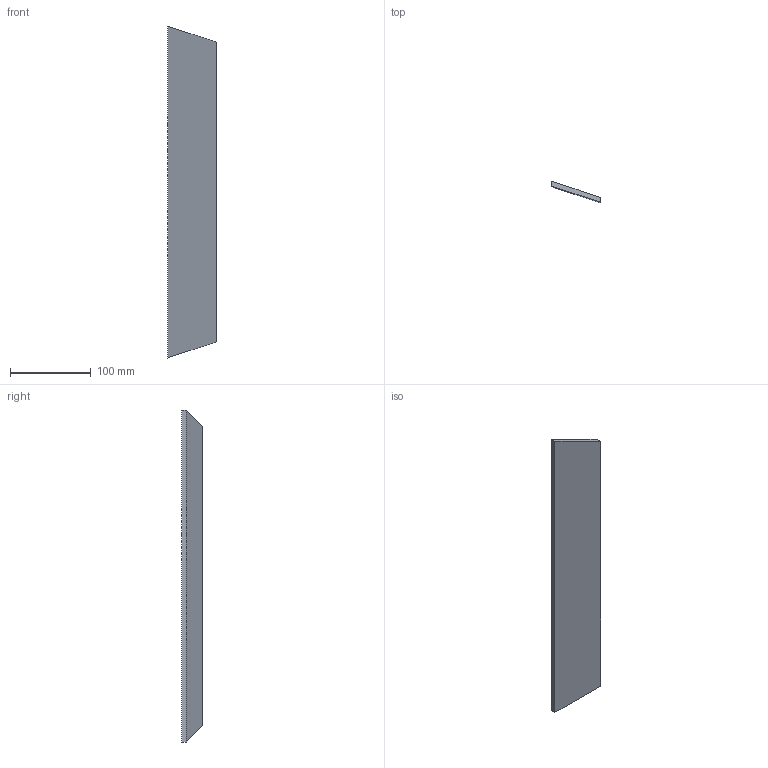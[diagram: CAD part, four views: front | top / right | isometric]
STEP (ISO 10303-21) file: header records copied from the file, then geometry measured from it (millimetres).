
FILE_DESCRIPTION(('Open CASCADE Model'),'2;1');
FILE_NAME('Open CASCADE Shape Model','2026-10-16T18:03:45',('Author'),( 'Open CASCADE'),'Open CASCADE STEP processor 7.8','Open CASCADE 7.8' ,'Unknown');
FILE_SCHEMA(('AUTOMOTIVE_DESIGN { 1 0 10303 214 1 1 1 1 }'));
Length unit declared in the file: millimetre
Products named in the file (1): Open CASCADE STEP translator 7.8 3
Bounding box: 60 x 26 x 412 mm (x, y, z)
Volume: 141120 mm3; surface area: 55047.5 mm2
Topology: 1 solids, 1 shells, 6 faces, 12 edges, 8 vertices
Faces by surface type: plane 6
Entity records: 322 total; most frequent: CARTESIAN_POINT 51, DIRECTION 50, LINE 36, VECTOR 36, ORIENTED_EDGE 24, PCURVE 24, DEFINITIONAL_REPRESENTATION 24, EDGE_CURVE 12
